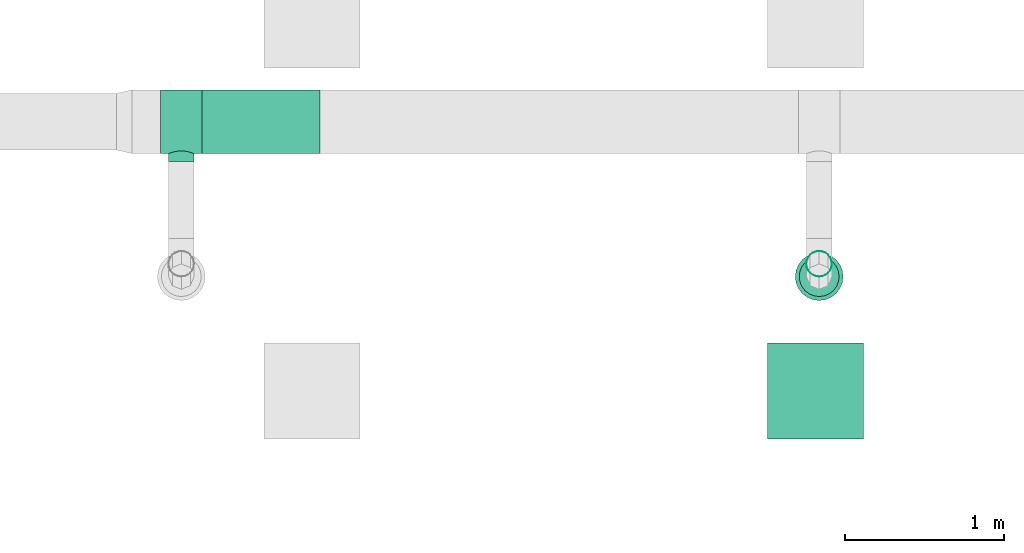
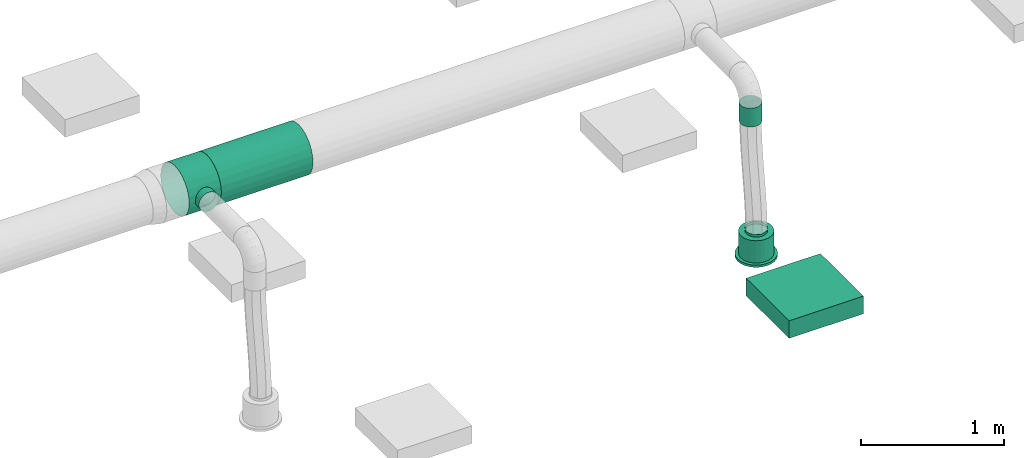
# One storey, part 60 of 374: 2 flow segments, 1 distribution element, 1 flow fitting, 1 flow terminal.
"""IFC2X3 building model written with IfcOpenShell, lengths in metres."""

import ifcopenshell
import ifcopenshell.guid

model = None  # the IFC model being written
_history = None  # IfcOwnerHistory: only IFC2X3 demands one
_inside = {}  # id of a spatial element -> (the spatial element, [elements in it])
_under = {}  # id of a project, library or spatial element -> (it, [spatial elements below it])
_declared = {}  # id of a project -> (the project, [libraries it declares])
_typed = {}  # id of a type object -> (the type object, [elements of that type])
_made_of = {}  # id of a material, layer set ... -> (it, [elements and type objects made of it])


def new_model(schema):
    """Start an empty IFC model of exactly this schema.

    Asked for "IFC4X3", IfcOpenShell would pick the latest addendum, in which some entities
    have other attributes; the version numbers below select the first issue.
    IFC2X3 requires an IfcOwnerHistory on every rooted entity: one is made here for all.
    """
    global model, _history
    if schema == "IFC4X3":
        model = ifcopenshell.file(schema_version=(4, 3, 0, 0))
    else:
        model = ifcopenshell.file(schema=schema)
    _inside.clear()
    _under.clear()
    _declared.clear()
    _typed.clear()
    _made_of.clear()
    _history = None
    if model.schema == "IFC2X3":
        org = make("IfcOrganization", Name="unknown")
        user = make(
            "IfcPersonAndOrganization",
            ThePerson=make("IfcPerson", FamilyName="unknown"),
            TheOrganization=org,
        )
        app = make(
            "IfcApplication",
            ApplicationDeveloper=org,
            Version="unknown",
            ApplicationFullName="unknown",
            ApplicationIdentifier="unknown",
        )
        _history = make(
            "IfcOwnerHistory",
            OwningUser=user,
            OwningApplication=app,
            ChangeAction="ADDED",
            CreationDate=0,
        )
    return model


def make(cls, **values):
    """One entity of the class cls with the attributes given. An attribute that is None is left unset."""
    return model.create_entity(
        cls, **{name: value for name, value in values.items() if value is not None}
    )


def rooted(cls, **values):
    """An entity with a GlobalId (a new one), such as an element, a storey or a relation."""
    return make(cls, GlobalId=ifcopenshell.guid.new(), OwnerHistory=_history, **values)


def si_unit(unit_type, name, prefix=None):
    """IfcSIUnit, for example si_unit("LENGTHUNIT", "METRE", prefix="MILLI")."""
    return make("IfcSIUnit", UnitType=unit_type, Prefix=prefix, Name=name)


def assignment(units):
    """IfcUnitAssignment: the units of a project."""
    return None if units is None else make("IfcUnitAssignment", Units=units)


def point(xyz):
    """IfcCartesianPoint."""
    return None if xyz is None else make("IfcCartesianPoint", Coordinates=xyz)


def direction(xyz):
    """IfcDirection."""
    return None if xyz is None else make("IfcDirection", DirectionRatios=xyz)


def frame(location, z_axis=None, x_axis=None):
    """IfcAxis2Placement3D, a coordinate frame: its origin and axes. An axis left out is left unset."""
    return make(
        "IfcAxis2Placement3D",
        Location=point(location),
        Axis=direction(z_axis),
        RefDirection=direction(x_axis),
    )


def frame_2d(location, x_axis=None):
    """IfcAxis2Placement2D, a coordinate frame in the plane: its origin and x axis."""
    return make(
        "IfcAxis2Placement2D", Location=point(location), RefDirection=direction(x_axis)
    )


def origin():
    """The frame at (0, 0, 0) with its axes left unset."""
    return frame((0.0, 0.0, 0.0))


def place(relative_to, where):
    """IfcLocalPlacement: puts the frame where relative to a parent placement (None: the world)."""
    return make(
        "IfcLocalPlacement", PlacementRelTo=relative_to, RelativePlacement=where
    )


def context(
    kind, dimensions, precision=None, world=None, true_north=None, identifier=None
):
    """IfcGeometricRepresentationContext, for example the 3D "Model" context."""
    return make(
        "IfcGeometricRepresentationContext",
        ContextIdentifier=identifier,
        ContextType=kind,
        CoordinateSpaceDimension=dimensions,
        Precision=precision,
        WorldCoordinateSystem=world,
        TrueNorth=true_north,
    )


def subcontext(parent, identifier, kind, view, scale=None):
    """IfcGeometricRepresentationSubContext, for example "Body" below "Model"."""
    return make(
        "IfcGeometricRepresentationSubContext",
        ContextIdentifier=identifier,
        ContextType=kind,
        ParentContext=parent,
        TargetScale=scale,
        TargetView=view,
    )


def project(units=None, contexts=None):
    """IfcProject with its units and contexts."""
    return rooted(
        "IfcProject",
        Name="project",
        RepresentationContexts=contexts,
        UnitsInContext=assignment(units),
    )


def spatial(cls, under=None, at=None, **own):
    """A site, building, storey or space (cls), placed at a placement, below another one or the project."""
    s = rooted(cls, ObjectPlacement=at, **own)
    if under is not None:
        _under.setdefault(under.id(), (under, []))[1].append(s)
    return s


def profile(cls, at=None, kind="AREA", **sizes):
    """A parametric profile (cls). Its sizes go by their IFC names, for example OverallWidth=200.0."""
    return make(cls, ProfileType=kind, Position=at, **sizes)


def rectangle(**sizes):
    """IfcRectangleProfileDef."""
    return profile("IfcRectangleProfileDef", **sizes)


def extrude(swept, where, along, depth):
    """IfcExtrudedAreaSolid: the profile swept, set in the frame where, extruded along a direction by depth."""
    return make(
        "IfcExtrudedAreaSolid",
        SweptArea=swept,
        Position=where,
        ExtrudedDirection=direction(along),
        Depth=depth,
    )


def faces_of(points, faces, orient=None, outer=None):
    """IfcFace entities. A face is a list of loops; a loop is a list of indices into points, from 0.

    orient and outer hold one flag for each loop. By default every Orientation is true, the
    first loop of a face is its IfcFaceOuterBound and the others are IfcFaceBound.
    """
    made = []
    for i, loops in enumerate(faces):
        bounds = []
        for j, loop in enumerate(loops):
            is_outer = j == 0 if outer is None else outer[i][j]
            bounds.append(
                make(
                    "IfcFaceOuterBound" if is_outer else "IfcFaceBound",
                    Bound=make("IfcPolyLoop", Polygon=[points[k] for k in loop]),
                    Orientation=True if orient is None else orient[i][j],
                )
            )
        made.append(make("IfcFace", Bounds=bounds))
    return made


def open_shell(faces, orient=None, outer=None):
    """The faces of one IfcOpenShell. surface_model builds it on its shared points."""
    return ("IfcOpenShell", faces, orient, outer)


def surface_model(cls, points, shells):
    """IfcFaceBasedSurfaceModel or IfcShellBasedSurfaceModel (cls): surfaces that need not close."""
    shared = [point(p) for p in points]
    made = [make(c, CfsFaces=faces_of(shared, fs, o, b)) for c, fs, o, b in shells]
    if cls == "IfcFaceBasedSurfaceModel":
        return make(cls, FbsmFaces=made)
    return make(cls, SbsmBoundary=made)


def shape(context_of_items, identifier, shape_type, items):
    """IfcShapeRepresentation: the items that make up one representation, for example the "Body"."""
    return make(
        "IfcShapeRepresentation",
        ContextOfItems=context_of_items,
        RepresentationIdentifier=identifier,
        RepresentationType=shape_type,
        Items=items,
    )


def source(mapping_origin, context_of_items, identifier, shape_type, items):
    """IfcRepresentationMap: a shape defined once, which mapped items show again and again."""
    return make(
        "IfcRepresentationMap",
        MappingOrigin=mapping_origin,
        MappedRepresentation=shape(context_of_items, identifier, shape_type, items),
    )


def transform(
    local_origin,
    x_axis=None,
    y_axis=None,
    z_axis=None,
    scale=None,
    scale2=None,
    scale3=None,
    uniform=True,
):
    """IfcCartesianTransformationOperator3D, or its non-uniform kind. x_axis, y_axis, z_axis: its Axis1, 2, 3."""
    if uniform:
        return make(
            "IfcCartesianTransformationOperator3D",
            Axis1=direction(x_axis),
            Axis2=direction(y_axis),
            LocalOrigin=point(local_origin),
            Scale=scale,
            Axis3=direction(z_axis),
        )
    return make(
        "IfcCartesianTransformationOperator3DnonUniform",
        Axis1=direction(x_axis),
        Axis2=direction(y_axis),
        LocalOrigin=point(local_origin),
        Scale=scale,
        Axis3=direction(z_axis),
        Scale2=scale2,
        Scale3=scale3,
    )


def mapped(mapping_source, mapping_target):
    """IfcMappedItem: shows the shape of a source again, moved by a transform."""
    return make(
        "IfcMappedItem", MappingSource=mapping_source, MappingTarget=mapping_target
    )


def made_of(thing, what):
    """Note that an element or type object is made of a material, layer set ...; save() writes the relation."""
    if what is not None:
        _made_of.setdefault(what.id(), (what, []))[1].append(thing)
    return thing


def element(
    cls,
    number,
    at=None,
    inside=None,
    cuts=None,
    type_object=None,
    material=None,
    context=None,
    identifier="Body",
    shape_type=None,
    held_by="IfcProductDefinitionShape",
    body=None,
    shapes=None,
    **own,
):
    """One element of the class cls, such as IfcWall. Its Tag is "e" and its number.

    at: its placement. inside: the storey or other place that contains it. cuts: it is an
    opening in that element (IfcRelVoidsElement). A single representation is given by context,
    identifier, shape_type and body (its items); several are given by shapes. held_by: the class
    of the entity that holds the representations. save() writes the other relations.
    """
    e = rooted(cls, Tag="e%d" % number, ObjectPlacement=at, **own)
    if body is not None:
        shapes = [shape(context, identifier, shape_type, body)]
    if shapes is not None:
        e.Representation = make(held_by, Representations=shapes)
    if inside is not None:
        _inside.setdefault(inside.id(), (inside, []))[1].append(e)
    if cuts is not None:
        rooted(
            "IfcRelVoidsElement", RelatingBuildingElement=cuts, RelatedOpeningElement=e
        )
    if type_object is not None:
        _typed.setdefault(type_object.id(), (type_object, []))[1].append(e)
    return made_of(e, material)


def aggregate(whole, parts):
    """IfcRelAggregates: a whole, such as a stair, and the parts it consists of."""
    return rooted("IfcRelAggregates", RelatingObject=whole, RelatedObjects=parts)


def save(model, path):
    """Write the relations noted so far, then the file.

    IfcRelAggregates (storeys below a building ...), IfcRelContainedInSpatialStructure (elements
    in a storey), IfcRelDefinesByType, IfcRelAssociatesMaterial and IfcRelDeclares: one each for
    every whole, place, type object, material and project.
    """
    for whole, parts in _under.values():
        aggregate(whole, parts)
    for where, things in _inside.values():
        rooted(
            "IfcRelContainedInSpatialStructure",
            RelatedElements=things,
            RelatingStructure=where,
        )
    for kind, things in _typed.values():
        rooted("IfcRelDefinesByType", RelatedObjects=things, RelatingType=kind)
    for what, things in _made_of.values():
        rooted("IfcRelAssociatesMaterial", RelatedObjects=things, RelatingMaterial=what)
    for by, libraries in _declared.values():
        rooted("IfcRelDeclares", RelatingContext=by, RelatedDefinitions=libraries)
    model.write(path)


model = new_model("IFC2X3")

# Units and contexts
model_context = context("Model", 3, precision=1e-05, world=origin(), true_north=direction((-0.4480736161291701, 0.8939966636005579)))
body_context = subcontext(model_context, "Body", "Model", "MODEL_VIEW")
ifc_project = project(units=[si_unit("LENGTHUNIT", "METRE"), si_unit("AREAUNIT", "SQUARE_METRE"), si_unit("VOLUMEUNIT", "CUBIC_METRE"), si_unit("PLANEANGLEUNIT", "RADIAN"), si_unit("THERMODYNAMICTEMPERATUREUNIT", "KELVIN"), si_unit("MASSUNIT", "GRAM", prefix="KILO"), si_unit("TIMEUNIT", "SECOND")], contexts=[model_context])

# Site, building, storey
site_placement = place(None, origin())
site = spatial("IfcSite", under=ifc_project, at=site_placement, Name="Site 1", CompositionType="ELEMENT")
building_placement = place(site_placement, origin())
building = spatial("IfcBuilding", under=site, at=building_placement, Name="Undefined", CompositionType="ELEMENT")
storey_placement = place(building_placement, origin())
storey = spatial("IfcBuildingStorey", under=building, at=storey_placement, Name="Rez de chauss\x8ee", CompositionType="ELEMENT", Elevation=0.0)

# Flow terminal
shared_shape_1 = source(origin(), body_context, "Body", "SurfaceModel", [
    surface_model("IfcFaceBasedSurfaceModel", [(0.0, 0.0, 0.0), (0.03915785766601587, 0.0, 0.0), (0.03915785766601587, 0.020000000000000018, 0.0), (3.552713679e-15, 0.020000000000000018, 0.0), (0.07698144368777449, 0.0, -0.010134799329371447), (0.07698144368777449, 0.020000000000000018, -0.010134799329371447), (0.11089314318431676, 0.0, -0.02971372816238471), (0.11089314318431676, 0.020000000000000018, -0.02971372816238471), (0.13858192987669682, 0.0, -0.05740251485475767), (0.13858192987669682, 0.020000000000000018, -0.05740251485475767), (0.15816085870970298, 0.0, -0.09131421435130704), (0.15816085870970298, 0.020000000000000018, -0.09131421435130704), (0.16829565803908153, 0.0, -0.12913780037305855), (0.16829565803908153, 0.020000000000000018, -0.12913780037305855), (0.16829565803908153, 0.0, -0.16829565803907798), (0.16829565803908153, 0.020000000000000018, -0.16829565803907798), (0.15816085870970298, 0.0, -0.20611924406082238), (0.15816085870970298, 0.020000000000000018, -0.20611924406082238), (0.13858192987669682, 0.0, -0.24003094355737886), (0.13858192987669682, 0.020000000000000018, -0.24003094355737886), (0.11089314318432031, 0.0, -0.2677197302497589), (0.11089314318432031, 0.020000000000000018, -0.2677197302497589), (0.07698144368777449, 0.0, -0.2872986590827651), (0.07698144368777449, 0.020000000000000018, -0.2872986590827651), (0.039157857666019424, 0.0, -0.29743345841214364), (0.039157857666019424, 0.020000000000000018, -0.29743345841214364), (3.552713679e-15, 0.0, -0.29743345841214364), (3.552713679e-15, 0.020000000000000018, -0.29743345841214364), (-0.03782358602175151, 0.0, -0.2872986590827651), (-0.03782358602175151, 0.020000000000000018, -0.2872986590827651), (-0.07173528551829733, 0.0, -0.2677197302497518), (-0.07173528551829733, 0.020000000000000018, -0.2677197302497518), (-0.0994240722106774, 0.0, -0.24003094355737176), (-0.0994240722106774, 0.020000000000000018, -0.24003094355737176), (-0.11900300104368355, 0.0, -0.2061192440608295), (-0.11900300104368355, 0.020000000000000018, -0.2061192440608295), (-0.1291378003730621, 0.0, -0.16829565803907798), (-0.1291378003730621, 0.020000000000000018, -0.16829565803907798), (-0.1291378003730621, 0.0, -0.12913780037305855), (-0.1291378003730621, 0.020000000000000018, -0.12913780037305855), (-0.11900300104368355, 0.0, -0.09131421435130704), (-0.11900300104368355, 0.020000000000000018, -0.09131421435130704), (-0.0994240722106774, 0.0, -0.05740251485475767), (-0.0994240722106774, 0.020000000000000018, -0.05740251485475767), (-0.07173528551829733, 0.0, -0.029713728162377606), (-0.07173528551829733, 0.020000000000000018, -0.029713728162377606), (-0.03782358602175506, 0.0, -0.010134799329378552), (-0.03782358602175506, 0.020000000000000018, -0.010134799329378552), (0.019578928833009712, 0.0, -0.14871672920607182), (0.019578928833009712, 0.020000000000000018, -0.14871672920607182), (0.003263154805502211, 0.020000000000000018, -0.02478612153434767), (0.035894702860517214, 0.020000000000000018, -0.02478612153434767), (0.035894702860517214, 0.20999999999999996, -0.02478612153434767), (0.003263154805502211, 0.20999999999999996, -0.02478612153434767), (0.06741435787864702, 0.020000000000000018, -0.033231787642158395), (0.06741435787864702, 0.20999999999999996, -0.033231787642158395), (0.0956741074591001, 0.020000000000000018, -0.04954756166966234), (0.0956741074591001, 0.20999999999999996, -0.04954756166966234), (0.11874809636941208, 0.020000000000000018, -0.07262155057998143), (0.11874809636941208, 0.20999999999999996, -0.07262155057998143), (0.13506387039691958, 0.020000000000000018, -0.10088130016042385), (0.13506387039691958, 0.20999999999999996, -0.10088130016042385), (0.1435095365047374, 0.020000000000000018, -0.13240095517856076), (0.1435095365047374, 0.20999999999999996, -0.13240095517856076), (0.1435095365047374, 0.020000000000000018, -0.16503250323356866), (0.1435095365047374, 0.20999999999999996, -0.16503250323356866), (0.13506387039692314, 0.020000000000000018, -0.19655215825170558), (0.13506387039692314, 0.20999999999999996, -0.19655215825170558), (0.11874809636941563, 0.020000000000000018, -0.2248119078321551), (0.11874809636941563, 0.20999999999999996, -0.2248119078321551), (0.09567410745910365, 0.020000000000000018, -0.24788589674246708), (0.09567410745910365, 0.20999999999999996, -0.24788589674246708), (0.06741435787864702, 0.020000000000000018, -0.26420167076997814), (0.06741435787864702, 0.20999999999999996, -0.26420167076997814), (0.035894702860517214, 0.020000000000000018, -0.27264733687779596), (0.035894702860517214, 0.20999999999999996, -0.27264733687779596), (0.0032631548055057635, 0.020000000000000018, -0.27264733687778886), (0.0032631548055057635, 0.20999999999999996, -0.27264733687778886), (-0.028256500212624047, 0.020000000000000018, -0.26420167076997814), (-0.028256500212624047, 0.20999999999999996, -0.26420167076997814), (-0.05651624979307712, 0.020000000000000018, -0.2478858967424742), (-0.05651624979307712, 0.20999999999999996, -0.2478858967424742), (-0.07959023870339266, 0.020000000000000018, -0.2248119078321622), (-0.07959023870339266, 0.20999999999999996, -0.2248119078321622), (-0.09590601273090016, 0.020000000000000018, -0.19655215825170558), (-0.09590601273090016, 0.20999999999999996, -0.19655215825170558), (-0.10435167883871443, 0.020000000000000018, -0.16503250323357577), (-0.10435167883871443, 0.20999999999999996, -0.16503250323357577), (-0.10435167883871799, 0.020000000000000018, -0.13240095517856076), (-0.10435167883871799, 0.20999999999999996, -0.13240095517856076), (-0.09590601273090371, 0.020000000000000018, -0.10088130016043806), (-0.09590601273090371, 0.20999999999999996, -0.10088130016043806), (-0.07959023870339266, 0.020000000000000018, -0.07262155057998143), (-0.07959023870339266, 0.20999999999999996, -0.07262155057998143), (-0.056516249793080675, 0.020000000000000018, -0.04954756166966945), (-0.056516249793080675, 0.20999999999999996, -0.04954756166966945), (-0.028256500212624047, 0.020000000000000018, -0.033231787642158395), (-0.028256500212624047, 0.20999999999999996, -0.033231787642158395), (0.019578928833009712, 0.20999999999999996, -0.14871672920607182), (0.009136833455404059, 0.20999999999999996, -0.06940114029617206), (0.030021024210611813, 0.20999999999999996, -0.06940114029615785), (0.030021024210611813, 0.22999999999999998, -0.06940114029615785), (0.009136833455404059, 0.22999999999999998, -0.06940114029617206), (0.05019360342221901, 0.20999999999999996, -0.07480636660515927), (0.05019360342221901, 0.22999999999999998, -0.07480636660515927), (0.06827984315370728, 0.20999999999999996, -0.08524846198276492), (0.06827984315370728, 0.22999999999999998, -0.08524846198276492), (0.0830471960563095, 0.20999999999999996, -0.10001581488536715), (0.0830471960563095, 0.22999999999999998, -0.10001581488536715), (0.0934892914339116, 0.20999999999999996, -0.11810205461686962), (0.0934892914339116, 0.22999999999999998, -0.11810205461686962), (0.09889451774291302, 0.20999999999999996, -0.13827463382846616), (0.09889451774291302, 0.22999999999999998, -0.13827463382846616), (0.09889451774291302, 0.20999999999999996, -0.15915882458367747), (0.09889451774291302, 0.22999999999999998, -0.15915882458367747), (0.09348929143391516, 0.20999999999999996, -0.179331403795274), (0.09348929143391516, 0.22999999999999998, -0.179331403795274), (0.0830471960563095, 0.20999999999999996, -0.19741764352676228), (0.0830471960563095, 0.22999999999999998, -0.19741764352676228), (0.06827984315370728, 0.20999999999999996, -0.2121849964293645), (0.06827984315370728, 0.22999999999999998, -0.2121849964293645), (0.05019360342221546, 0.20999999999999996, -0.22262709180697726), (0.05019360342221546, 0.22999999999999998, -0.22262709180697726), (0.030021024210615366, 0.20999999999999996, -0.22803231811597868), (0.030021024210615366, 0.22999999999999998, -0.22803231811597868), (0.009136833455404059, 0.20999999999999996, -0.22803231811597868), (0.009136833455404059, 0.22999999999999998, -0.22803231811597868), (-0.011035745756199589, 0.20999999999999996, -0.22262709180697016), (-0.011035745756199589, 0.22999999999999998, -0.22262709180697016), (-0.0291219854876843, 0.20999999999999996, -0.2121849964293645), (-0.0291219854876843, 0.22999999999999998, -0.2121849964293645), (-0.043889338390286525, 0.20999999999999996, -0.19741764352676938), (-0.043889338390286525, 0.22999999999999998, -0.19741764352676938), (-0.05433143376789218, 0.20999999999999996, -0.17933140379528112), (-0.05433143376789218, 0.22999999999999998, -0.17933140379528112), (-0.05973666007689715, 0.20999999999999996, -0.15915882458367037), (-0.05973666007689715, 0.22999999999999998, -0.15915882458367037), (-0.0597366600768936, 0.20999999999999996, -0.13827463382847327), (-0.0597366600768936, 0.22999999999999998, -0.13827463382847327), (-0.05433143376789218, 0.20999999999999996, -0.11810205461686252), (-0.05433143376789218, 0.22999999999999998, -0.11810205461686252), (-0.043889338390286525, 0.20999999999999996, -0.10001581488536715), (-0.043889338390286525, 0.22999999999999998, -0.10001581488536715), (-0.02912198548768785, 0.20999999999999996, -0.08524846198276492), (-0.02912198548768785, 0.22999999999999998, -0.08524846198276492), (-0.011035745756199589, 0.20999999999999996, -0.07480636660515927), (-0.011035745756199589, 0.22999999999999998, -0.07480636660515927)], [open_shell([[[0, 1, 2, 3]], [[1, 4, 5, 2]], [[4, 6, 7, 5]], [[6, 8, 9, 7]], [[8, 10, 11, 9]], [[10, 12, 13, 11]], [[12, 14, 15, 13]], [[14, 16, 17, 15]], [[16, 18, 19, 17]], [[18, 20, 21, 19]], [[20, 22, 23, 21]], [[22, 24, 25, 23]], [[24, 26, 27, 25]], [[26, 28, 29, 27]], [[28, 30, 31, 29]], [[30, 32, 33, 31]], [[32, 34, 35, 33]], [[34, 36, 37, 35]], [[36, 38, 39, 37]], [[38, 40, 41, 39]], [[40, 42, 43, 41]], [[42, 44, 45, 43]], [[44, 46, 47, 45]], [[46, 0, 3, 47]], [[48, 1, 0]], [[48, 4, 1]], [[48, 6, 4]], [[48, 8, 6]], [[48, 10, 8]], [[48, 12, 10]], [[48, 14, 12]], [[48, 16, 14]], [[48, 18, 16]], [[48, 20, 18]], [[48, 22, 20]], [[48, 24, 22]], [[48, 26, 24]], [[48, 28, 26]], [[48, 30, 28]], [[48, 32, 30]], [[48, 34, 32]], [[48, 36, 34]], [[48, 38, 36]], [[48, 40, 38]], [[48, 42, 40]], [[48, 44, 42]], [[48, 46, 44]], [[48, 0, 46]], [[49, 47, 3]], [[49, 45, 47]], [[49, 43, 45]], [[49, 41, 43]], [[49, 39, 41]], [[49, 37, 39]], [[49, 35, 37]], [[49, 33, 35]], [[49, 31, 33]], [[49, 29, 31]], [[49, 27, 29]], [[49, 25, 27]], [[49, 23, 25]], [[49, 21, 23]], [[49, 19, 21]], [[49, 17, 19]], [[49, 15, 17]], [[49, 13, 15]], [[49, 11, 13]], [[49, 9, 11]], [[49, 7, 9]], [[49, 5, 7]], [[49, 2, 5]], [[49, 3, 2]], [[50, 51, 52, 53]], [[51, 54, 55, 52]], [[54, 56, 57, 55]], [[56, 58, 59, 57]], [[58, 60, 61, 59]], [[60, 62, 63, 61]], [[62, 64, 65, 63]], [[64, 66, 67, 65]], [[66, 68, 69, 67]], [[68, 70, 71, 69]], [[70, 72, 73, 71]], [[72, 74, 75, 73]], [[74, 76, 77, 75]], [[76, 78, 79, 77]], [[78, 80, 81, 79]], [[80, 82, 83, 81]], [[82, 84, 85, 83]], [[84, 86, 87, 85]], [[86, 88, 89, 87]], [[88, 90, 91, 89]], [[90, 92, 93, 91]], [[92, 94, 95, 93]], [[94, 96, 97, 95]], [[96, 50, 53, 97]], [[49, 51, 50]], [[49, 54, 51]], [[49, 56, 54]], [[49, 58, 56]], [[49, 60, 58]], [[49, 62, 60]], [[49, 64, 62]], [[49, 66, 64]], [[49, 68, 66]], [[49, 70, 68]], [[49, 72, 70]], [[49, 74, 72]], [[49, 76, 74]], [[49, 78, 76]], [[49, 80, 78]], [[49, 82, 80]], [[49, 84, 82]], [[49, 86, 84]], [[49, 88, 86]], [[49, 90, 88]], [[49, 92, 90]], [[49, 94, 92]], [[49, 96, 94]], [[49, 50, 96]], [[98, 97, 53]], [[98, 95, 97]], [[98, 93, 95]], [[98, 91, 93]], [[98, 89, 91]], [[98, 87, 89]], [[98, 85, 87]], [[98, 83, 85]], [[98, 81, 83]], [[98, 79, 81]], [[98, 77, 79]], [[98, 75, 77]], [[98, 73, 75]], [[98, 71, 73]], [[98, 69, 71]], [[98, 67, 69]], [[98, 65, 67]], [[98, 63, 65]], [[98, 61, 63]], [[98, 59, 61]], [[98, 57, 59]], [[98, 55, 57]], [[98, 52, 55]], [[98, 53, 52]], [[99, 100, 101, 102]], [[100, 103, 104, 101]], [[103, 105, 106, 104]], [[105, 107, 108, 106]], [[107, 109, 110, 108]], [[109, 111, 112, 110]], [[111, 113, 114, 112]], [[113, 115, 116, 114]], [[115, 117, 118, 116]], [[117, 119, 120, 118]], [[119, 121, 122, 120]], [[121, 123, 124, 122]], [[123, 125, 126, 124]], [[125, 127, 128, 126]], [[127, 129, 130, 128]], [[129, 131, 132, 130]], [[131, 133, 134, 132]], [[133, 135, 136, 134]], [[135, 137, 138, 136]], [[137, 139, 140, 138]], [[139, 141, 142, 140]], [[141, 143, 144, 142]], [[143, 145, 146, 144]], [[145, 99, 102, 146]]])]),
])
flow_terminal_placement = place(storey_placement, origin())
element("IfcFlowTerminal", 1, at=flow_terminal_placement, inside=storey, Name="Air diffuseur - bouche", ObjectType="Air diffuseur - bouche", context=body_context, shape_type="MappedRepresentation", body=[
    mapped(shared_shape_1, transform((42.29000111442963, 2.0299997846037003, 2.38), x_axis=(-0.9914448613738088, -0.13052619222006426, 0.0), y_axis=(0.0, 0.0, 1.0), z_axis=(-0.13052619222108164, 0.9914448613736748, 0.0))),
])

# Flow fitting
shared_shape_2 = source(origin(), body_context, "Body", "SurfaceModel", [
    surface_model("IfcFaceBasedSurfaceModel", [(0.0, 0.05221047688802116, -8.8817842e-16), (0.0, 0.0, 0.0), (0.2599999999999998, -7.105427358e-15, 0.0), (0.2599999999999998, 0.05221047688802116, -8.8817842e-16), (0.0, -0.05043144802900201, -0.013513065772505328), (0.2599999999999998, -0.05043144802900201, -0.013513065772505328), (0.0, -0.09564704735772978, -0.0396183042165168), (0.2599999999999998, -0.09564704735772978, -0.0396183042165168), (0.0, -0.1325654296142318, -0.07653668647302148), (0.2599999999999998, -0.1325654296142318, -0.07653668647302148), (0.0, -0.15867066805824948, -0.12175228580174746), (0.2599999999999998, -0.15867066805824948, -0.12175228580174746), (0.0, -0.17218373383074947, -0.17218373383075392), (0.2599999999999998, -0.17218373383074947, -0.17218373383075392), (0.0, -0.17218373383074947, -0.22439421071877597), (0.2599999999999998, -0.17218373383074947, -0.22439421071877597), (0.0, -0.15867066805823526, -0.2748256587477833), (0.2599999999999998, -0.15867066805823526, -0.2748256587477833), (0.0, -0.1325654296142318, -0.3200412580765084), (0.2599999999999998, -0.1325654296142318, -0.3200412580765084), (0.0, -0.09564704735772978, -0.35695964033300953), (0.2599999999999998, -0.09564704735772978, -0.35695964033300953), (0.0, -0.050431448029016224, -0.3830648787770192), (0.2599999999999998, -0.050431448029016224, -0.3830648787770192), (0.0, 0.0, -0.39657794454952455), (0.2599999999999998, 0.0, -0.39657794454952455), (0.0, 0.05221047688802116, -0.3965779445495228), (0.2599999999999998, 0.05221047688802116, -0.3965779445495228), (0.0, 0.10264192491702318, -0.38306487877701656), (0.2599999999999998, 0.10264192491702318, -0.38306487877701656), (0.0, 0.14785752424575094, -0.356959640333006), (0.2599999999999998, 0.14785752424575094, -0.356959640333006), (0.0, 0.18477590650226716, -0.32004125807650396), (0.2599999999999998, 0.18477590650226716, -0.32004125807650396), (0.0, 0.21088114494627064, -0.2748256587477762), (0.2599999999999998, 0.21088114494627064, -0.2748256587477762), (0.0, 0.22439421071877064, -0.22439421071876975), (0.2599999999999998, 0.22439421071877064, -0.22439421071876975), (0.0, 0.22439421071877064, -0.1721837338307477), (0.2599999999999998, 0.22439421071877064, -0.1721837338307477), (0.0, 0.21088114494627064, -0.12175228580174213), (0.2599999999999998, 0.21088114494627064, -0.12175228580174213), (0.0, 0.18477590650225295, -0.07653668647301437), (0.2599999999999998, 0.18477590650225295, -0.07653668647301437), (0.0, 0.14785752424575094, -0.03961830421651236), (0.2599999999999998, 0.14785752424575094, -0.03961830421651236), (0.0, 0.10264192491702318, -0.013513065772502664), (0.2599999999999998, 0.10264192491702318, -0.013513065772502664), (0.20999999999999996, 0.22439421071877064, -0.22439421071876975), (0.2072740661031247, 0.2206261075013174, -0.24478232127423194), (0.2072740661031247, 0.2712638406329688, -0.2514489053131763), (0.20999999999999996, 0.273966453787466, -0.23092052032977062), (0.19928203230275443, 0.21516691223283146, -0.263524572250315), (0.19928203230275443, 0.2687454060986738, -0.27057831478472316), (0.18656854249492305, 0.20891366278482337, -0.2794128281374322), (0.18656854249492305, 0.2665827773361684, -0.2870051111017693), (0.16999999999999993, 0.20307366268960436, -0.291467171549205), (0.16999999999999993, 0.26492333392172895, -0.29960983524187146), (0.15070552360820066, 0.19890954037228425, -0.2989799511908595), (0.15070552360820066, 0.26388016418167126, -0.307533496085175), (0.1299999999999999, 0.19739798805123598, -0.3015304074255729), (0.1299999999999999, 0.26352435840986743, -0.3102361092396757), (0.10929447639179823, 0.19890954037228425, -0.2989799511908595), (0.10929447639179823, 0.26388016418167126, -0.307533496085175), (0.08999999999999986, 0.20307366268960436, -0.291467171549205), (0.08999999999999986, 0.26492333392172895, -0.29960983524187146), (0.07343145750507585, 0.20891366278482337, -0.2794128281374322), (0.07343145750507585, 0.2665827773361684, -0.2870051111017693), (0.06071796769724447, 0.21516691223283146, -0.263524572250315), (0.06071796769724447, 0.2687454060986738, -0.27057831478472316), (0.05272593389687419, 0.2206261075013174, -0.24478232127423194), (0.05272593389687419, 0.2712638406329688, -0.2514489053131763), (0.04999999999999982, 0.22439421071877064, -0.22439421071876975), (0.04999999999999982, 0.273966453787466, -0.23092052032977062), (0.05272593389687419, 0.22603133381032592, -0.20372555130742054), (0.05272593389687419, 0.27666906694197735, -0.21039213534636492), (0.06071796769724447, 0.22560900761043, -0.18420898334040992), (0.06071796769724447, 0.27918750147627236, -0.19126272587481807), (0.07343145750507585, 0.2236810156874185, -0.16724364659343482), (0.07343145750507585, 0.28135013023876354, -0.17483592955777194), (0.08999999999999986, 0.22115990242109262, -0.1540885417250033), (0.08999999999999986, 0.2830095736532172, -0.16223120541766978), (0.10929447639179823, 0.2190821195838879, -0.14575399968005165), (0.10929447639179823, 0.2840527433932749, -0.15430754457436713), (0.1299999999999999, 0.2182821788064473, -0.14289922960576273), (0.1299999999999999, 0.28440854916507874, -0.15160493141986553), (0.15070552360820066, 0.2190821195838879, -0.14575399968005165), (0.15070552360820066, 0.2840527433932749, -0.15430754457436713), (0.16999999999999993, 0.22115990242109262, -0.1540885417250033), (0.16999999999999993, 0.2830095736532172, -0.16223120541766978), (0.18656854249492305, 0.2236810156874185, -0.16724364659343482), (0.18656854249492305, 0.28135013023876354, -0.17483592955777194), (0.19928203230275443, 0.22560900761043, -0.18420898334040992), (0.19928203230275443, 0.27918750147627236, -0.19126272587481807), (0.2072740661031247, 0.22603133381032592, -0.20372555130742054), (0.2072740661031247, 0.27666906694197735, -0.21039213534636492)], [open_shell([[[0, 1, 2, 3]], [[1, 4, 5, 2]], [[4, 6, 7, 5]], [[6, 8, 9, 7]], [[8, 10, 11, 9]], [[10, 12, 13, 11]], [[12, 14, 15, 13]], [[14, 16, 17, 15]], [[16, 18, 19, 17]], [[18, 20, 21, 19]], [[20, 22, 23, 21]], [[22, 24, 25, 23]], [[24, 26, 27, 25]], [[26, 28, 29, 27]], [[28, 30, 31, 29]], [[30, 32, 33, 31]], [[32, 34, 35, 33]], [[34, 36, 37, 35]], [[36, 38, 39, 37]], [[38, 40, 41, 39]], [[40, 42, 43, 41]], [[42, 44, 45, 43]], [[44, 46, 47, 45]], [[46, 0, 3, 47]], [[48, 49, 50, 51]], [[49, 52, 53, 50]], [[52, 54, 55, 53]], [[54, 56, 57, 55]], [[56, 58, 59, 57]], [[58, 60, 61, 59]], [[60, 62, 63, 61]], [[62, 64, 65, 63]], [[64, 66, 67, 65]], [[66, 68, 69, 67]], [[68, 70, 71, 69]], [[70, 72, 73, 71]], [[72, 74, 75, 73]], [[74, 76, 77, 75]], [[76, 78, 79, 77]], [[78, 80, 81, 79]], [[80, 82, 83, 81]], [[82, 84, 85, 83]], [[84, 86, 87, 85]], [[86, 88, 89, 87]], [[88, 90, 91, 89]], [[90, 92, 93, 91]], [[92, 94, 95, 93]], [[94, 48, 51, 95]]])]),
])
flow_fitting_placement = place(storey_placement, origin())
element("IfcFlowFitting", 2, at=flow_fitting_placement, inside=storey, Name="Pièce en té 90°", ObjectType="Pièce en té 90°", context=body_context, shape_type="MappedRepresentation", body=[
    mapped(shared_shape_2, transform((38.160001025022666, 2.903061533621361, 3.6068148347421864), x_axis=(1.0, 0.0, 0.0), y_axis=(0.0, -0.9914448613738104, -0.13052619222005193), z_axis=(0.0, 0.13052619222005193, -0.9914448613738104))),
])

# Flow segments
shared_shape_3 = source(origin(), body_context, "Body", "SurfaceModel", [
    surface_model("IfcFaceBasedSurfaceModel", [(0.0, 0.05221047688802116, -8.8817842e-16), (0.0, 0.0, 0.0), (0.7400000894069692, 4.4408921e-16, 0.0), (0.7400000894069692, 0.052210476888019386, 0.0), (0.0, -0.05043144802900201, -0.013513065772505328), (0.7400000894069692, -0.05043144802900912, -0.013513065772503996), (0.0, -0.09564704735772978, -0.0396183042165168), (0.7400000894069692, -0.0956470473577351, -0.03961830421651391), (0.0, -0.1325654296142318, -0.07653668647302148), (0.7400000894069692, -0.1325654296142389, -0.07653668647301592), (0.0, -0.15867066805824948, -0.12175228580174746), (0.7400000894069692, -0.15867066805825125, -0.12175228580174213), (0.0, -0.17218373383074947, -0.17218373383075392), (0.7400000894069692, -0.17218373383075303, -0.17218373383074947), (0.0, -0.17218373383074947, -0.22439421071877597), (0.7400000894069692, -0.17218373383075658, -0.2243942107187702), (0.0, -0.15867066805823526, -0.2748256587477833), (0.7400000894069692, -0.15867066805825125, -0.27482565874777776), (0.0, -0.1325654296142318, -0.3200412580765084), (0.7400000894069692, -0.13256542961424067, -0.32004125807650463), (0.0, -0.09564704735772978, -0.35695964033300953), (0.7400000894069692, -0.09564704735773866, -0.3569596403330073), (0.0, -0.050431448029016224, -0.3830648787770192), (0.7400000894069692, -0.050431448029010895, -0.38306487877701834), (0.0, 0.0, -0.39657794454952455), (0.7400000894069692, -5.329070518e-15, -0.39657794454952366), (0.0, 0.05221047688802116, -0.3965779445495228), (0.7400000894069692, 0.05221047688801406, -0.3965779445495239), (0.0, 0.10264192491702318, -0.38306487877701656), (0.7400000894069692, 0.10264192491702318, -0.38306487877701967), (0.0, 0.14785752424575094, -0.356959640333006), (0.7400000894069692, 0.14785752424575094, -0.3569596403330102), (0.0, 0.18477590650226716, -0.32004125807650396), (0.7400000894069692, 0.18477590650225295, -0.32004125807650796), (0.0, 0.21088114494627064, -0.2748256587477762), (0.7400000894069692, 0.21088114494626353, -0.2748256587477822), (0.0, 0.22439421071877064, -0.22439421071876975), (0.7400000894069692, 0.22439421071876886, -0.2243942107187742), (0.0, 0.22439421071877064, -0.1721837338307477), (0.7400000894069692, 0.22439421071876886, -0.17218373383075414), (0.0, 0.21088114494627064, -0.12175228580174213), (0.7400000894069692, 0.2108811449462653, -0.12175228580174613), (0.0, 0.18477590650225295, -0.07653668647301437), (0.7400000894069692, 0.1847759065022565, -0.07653668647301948), (0.0, 0.14785752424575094, -0.03961830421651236), (0.7400000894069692, 0.14785752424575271, -0.039618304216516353), (0.0, 0.10264192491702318, -0.013513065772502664), (0.7400000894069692, 0.10264192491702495, -0.01351306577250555)], [open_shell([[[0, 1, 2, 3]], [[1, 4, 5, 2]], [[4, 6, 7, 5]], [[6, 8, 9, 7]], [[8, 10, 11, 9]], [[10, 12, 13, 11]], [[12, 14, 15, 13]], [[14, 16, 17, 15]], [[16, 18, 19, 17]], [[18, 20, 21, 19]], [[20, 22, 23, 21]], [[22, 24, 25, 23]], [[24, 26, 27, 25]], [[26, 28, 29, 27]], [[28, 30, 31, 29]], [[30, 32, 33, 31]], [[32, 34, 35, 33]], [[34, 36, 37, 35]], [[36, 38, 39, 37]], [[38, 40, 41, 39]], [[40, 42, 43, 41]], [[42, 44, 45, 43]], [[44, 46, 47, 45]], [[46, 0, 3, 47]]])]),
])
flow_segment_1_placement = place(storey_placement, origin())
element("IfcFlowSegment", 3, at=flow_segment_1_placement, inside=storey, Name="Tube", ObjectType="Tube", context=body_context, shape_type="MappedRepresentation", body=[
    mapped(shared_shape_3, transform((39.16000111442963, 2.903061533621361, 3.9931851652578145), x_axis=(-1.0, 0.0, 0.0), y_axis=(7.266545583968e-12, -0.9914448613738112, 0.13052619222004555), z_axis=(0.0, 0.13052619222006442, 0.9914448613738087))),
])
shared_shape_4 = source(origin(), body_context, "Body", "SurfaceModel", [
    surface_model("IfcFaceBasedSurfaceModel", [(0.0, 0.020884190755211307, 0.0), (0.0, 0.0, 0.0), (0.16000000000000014, 0.0, -4.4408921e-16), (0.16000000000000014, 0.0208841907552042, -4.4408921e-16), (0.0, -0.020172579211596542, -0.005405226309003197), (0.16000000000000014, -0.020172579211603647, -0.005405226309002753), (0.0, -0.03825881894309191, -0.015847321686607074), (0.16000000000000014, -0.03825881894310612, -0.015847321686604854), (0.0, -0.05302617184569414, -0.0306146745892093), (0.16000000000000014, -0.05302617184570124, -0.03061467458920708), (0.0, -0.06346826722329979, -0.04870091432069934), (0.16000000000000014, -0.0634682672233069, -0.04870091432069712), (0.0, -0.06887349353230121, -0.06887349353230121), (0.16000000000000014, -0.06887349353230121, -0.06887349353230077), (0.0, -0.06887349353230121, -0.08975768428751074), (0.16000000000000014, -0.06887349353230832, -0.08975768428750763), (0.0, -0.06346826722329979, -0.10993026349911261), (0.16000000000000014, -0.0634682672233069, -0.10993026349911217), (0.0, -0.05302617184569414, -0.12801650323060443), (0.16000000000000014, -0.05302617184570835, -0.1280165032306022), (0.0, -0.038258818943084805, -0.14278385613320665), (0.16000000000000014, -0.03825881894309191, -0.14278385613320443), (0.0, -0.020172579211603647, -0.15322595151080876), (0.16000000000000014, -0.020172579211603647, -0.1532259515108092), (0.0, 7.105427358e-15, -0.15863117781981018), (0.16000000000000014, -7.105427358e-15, -0.15863117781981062), (0.0, 0.020884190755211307, -0.15863117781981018), (0.16000000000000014, 0.0208841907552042, -0.15863117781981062), (0.0, 0.04105676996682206, -0.15322595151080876), (0.16000000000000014, 0.04105676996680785, -0.1532259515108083), (0.0, 0.05914300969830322, -0.1427838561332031), (0.16000000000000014, 0.05914300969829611, -0.14278385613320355), (0.0, 0.07391036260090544, -0.12801650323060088), (0.16000000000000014, 0.07391036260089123, -0.1280165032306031), (0.0, 0.0843524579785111, -0.10993026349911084), (0.16000000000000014, 0.08435245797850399, -0.10993026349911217), (0.0, 0.08975768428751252, -0.08975768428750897), (0.16000000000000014, 0.08975768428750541, -0.08975768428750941), (0.0, 0.08975768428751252, -0.06887349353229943), (0.16000000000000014, 0.08975768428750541, -0.06887349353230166), (0.0, 0.0843524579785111, -0.048700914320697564), (0.16000000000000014, 0.08435245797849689, -0.04870091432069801), (0.0, 0.07391036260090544, -0.030614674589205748), (0.16000000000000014, 0.07391036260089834, -0.03061467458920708), (0.0, 0.05914300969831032, -0.015847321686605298), (0.16000000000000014, 0.05914300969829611, -0.01584732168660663), (0.0, 0.04105676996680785, -0.005405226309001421), (0.16000000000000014, 0.04105676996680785, -0.005405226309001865)], [open_shell([[[0, 1, 2, 3]], [[1, 4, 5, 2]], [[4, 6, 7, 5]], [[6, 8, 9, 7]], [[8, 10, 11, 9]], [[10, 12, 13, 11]], [[12, 14, 15, 13]], [[14, 16, 17, 15]], [[16, 18, 19, 17]], [[18, 20, 21, 19]], [[20, 22, 23, 21]], [[22, 24, 25, 23]], [[24, 26, 27, 25]], [[26, 28, 29, 27]], [[28, 30, 31, 29]], [[30, 32, 33, 31]], [[32, 34, 35, 33]], [[34, 36, 37, 35]], [[36, 38, 39, 37]], [[38, 40, 41, 39]], [[40, 42, 43, 41]], [[42, 44, 45, 43]], [[44, 46, 47, 45]], [[46, 0, 3, 47]]])]),
])
flow_segment_2_placement = place(storey_placement, origin())
element("IfcFlowSegment", 4, at=flow_segment_2_placement, inside=storey, Name="Tube", ObjectType="Tube", context=body_context, shape_type="MappedRepresentation", body=[
    mapped(shared_shape_4, transform((42.26929559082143, 2.0372738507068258, 3.4800000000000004), x_axis=(0.0, 0.0, 1.0), y_axis=(0.9914448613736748, 0.13052619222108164, 0.0), z_axis=(-0.13052619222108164, 0.9914448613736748, 0.0))),
])

# Distribution element
distribution_element_placement = place(storey_placement, origin())
element("IfcDistributionElement", 5, at=distribution_element_placement, inside=storey, Name="Decken-Rechteckleuchte mit Rahmen AP", ObjectType="Decken-Rechteckleuchte mit Rahmen AP", context=body_context, shape_type="SweptSolid", body=[
    extrude(rectangle(XDim=0.6000000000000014, YDim=0.6000000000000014, at=frame_2d((3.552713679e-15, 0.0), x_axis=(0.0, 1.0))), frame((42.267495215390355, 1.1625, 2.5500000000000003), z_axis=(0.0, 0.0, -1.0), x_axis=(1.0, 0.0, 0.0)), (0.0, 0.0, 1.0), 0.15),
])

save(model, "model.ifc")
